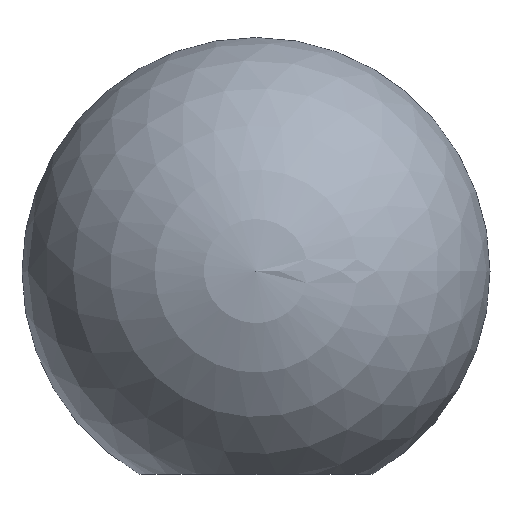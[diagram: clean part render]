
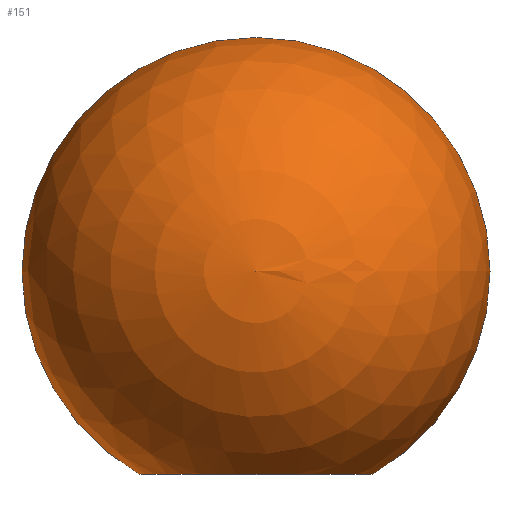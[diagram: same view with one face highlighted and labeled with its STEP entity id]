
A CAD part, top view. The second image highlights one B-rep face of the part: STEP entity #151.
In plain terms, the highlighted spherical face has radius 15 mm.
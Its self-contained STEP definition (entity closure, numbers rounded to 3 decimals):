
#52 = EDGE_CURVE ( 'NONE', #257, #318, #168, .T. ) ;
#57 = AXIS2_PLACEMENT_3D ( 'NONE', #79, #169, #352 ) ;
#63 = CARTESIAN_POINT ( 'NONE',  ( -7.483, 0., 0. ) ) ;
#70 = ORIENTED_EDGE ( 'NONE', *, *, #52, .F. ) ;
#71 = DIRECTION ( 'NONE',  ( 0., 0., -1. ) ) ;
#78 = CIRCLE ( 'NONE', #282, 15. ) ;
#79 = CARTESIAN_POINT ( 'NONE',  ( 0., 0., 0. ) ) ;
#82 = VERTEX_POINT ( 'NONE', #63 ) ;
#107 = EDGE_LOOP ( 'NONE', ( #70, #128, #263 ) ) ;
#128 = ORIENTED_EDGE ( 'NONE', *, *, #286, .T. ) ;
#135 = CARTESIAN_POINT ( 'NONE',  ( 0., 13., 0. ) ) ;
#136 = EDGE_CURVE ( 'NONE', #318, #82, #224, .T. ) ;
#141 = FACE_OUTER_BOUND ( 'NONE', #107, .T. ) ;
#145 = DIRECTION ( 'NONE',  ( 1., 0., 0. ) ) ;
#151 = ADVANCED_FACE ( 'NONE', ( #141 ), #362, .T. ) ;
#168 = CIRCLE ( 'NONE', #196, 15. ) ;
#169 = DIRECTION ( 'NONE',  ( 0., -1., 0. ) ) ;
#196 = AXIS2_PLACEMENT_3D ( 'NONE', #326, #71, #319 ) ;
#224 = CIRCLE ( 'NONE', #57, 7.483 ) ;
#225 = CARTESIAN_POINT ( 'NONE',  ( 0., 28., 0. ) ) ;
#228 = CARTESIAN_POINT ( 'NONE',  ( 0., 13., 0. ) ) ;
#245 = DIRECTION ( 'NONE',  ( 1., 0., 0. ) ) ;
#257 = VERTEX_POINT ( 'NONE', #225 ) ;
#263 = ORIENTED_EDGE ( 'NONE', *, *, #136, .F. ) ;
#282 = AXIS2_PLACEMENT_3D ( 'NONE', #228, #305, #145 ) ;
#286 = EDGE_CURVE ( 'NONE', #257, #82, #78, .T. ) ;
#305 = DIRECTION ( 'NONE',  ( 0., 0., 1. ) ) ;
#318 = VERTEX_POINT ( 'NONE', #342 ) ;
#319 = DIRECTION ( 'NONE',  ( -1., 0., 0. ) ) ;
#326 = CARTESIAN_POINT ( 'NONE',  ( 0., 13., 0. ) ) ;
#342 = CARTESIAN_POINT ( 'NONE',  ( 7.483, 0., 0. ) ) ;
#352 = DIRECTION ( 'NONE',  ( 0., 0., -1. ) ) ;
#356 = DIRECTION ( 'NONE',  ( 0., 0., 1. ) ) ;
#362 = SPHERICAL_SURFACE ( 'NONE', #367, 15. ) ;
#367 = AXIS2_PLACEMENT_3D ( 'NONE', #135, #356, #245 ) ;
